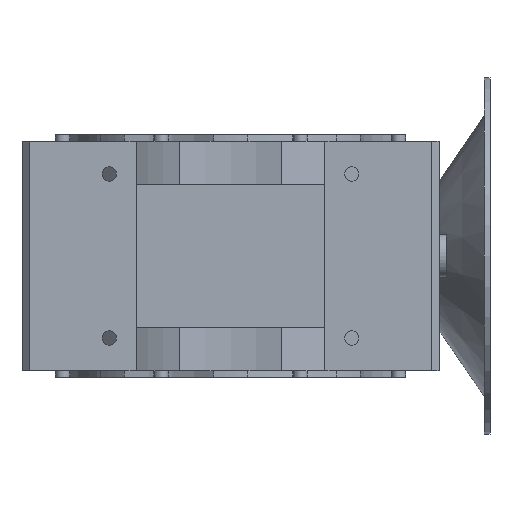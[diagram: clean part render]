
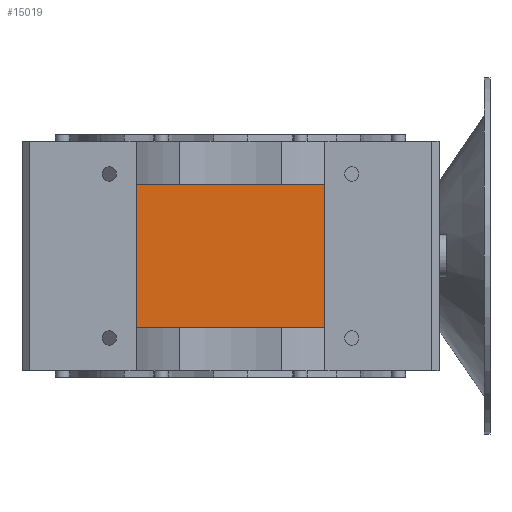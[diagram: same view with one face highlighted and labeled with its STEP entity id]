
A CAD part, front view. The second image highlights one B-rep face of the part: STEP entity #15019.
In plain terms, the highlighted planar face has unit normal (0, -1, 0).
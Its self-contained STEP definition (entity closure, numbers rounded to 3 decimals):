
#260 = VERTEX_POINT ( 'NONE', #22833 ) ;
#578 = DIRECTION ( 'NONE',  ( 0., 0., -1. ) ) ;
#630 = EDGE_CURVE ( 'NONE', #10429, #7874, #7313, .T. ) ;
#2507 = EDGE_CURVE ( 'NONE', #10429, #260, #5347, .T. ) ;
#2562 = DIRECTION ( 'NONE',  ( 1., 0., 0. ) ) ;
#2963 = CARTESIAN_POINT ( 'NONE',  ( -66.25, -142.5, 77. ) ) ;
#2983 = ORIENTED_EDGE ( 'NONE', *, *, #18518, .F. ) ;
#4478 = VECTOR ( 'NONE', #578, 1000. ) ;
#4936 = CARTESIAN_POINT ( 'NONE',  ( 0., -142.5, 50. ) ) ;
#5347 = LINE ( 'NONE', #2963, #4478 ) ;
#5511 = ORIENTED_EDGE ( 'NONE', *, *, #18836, .F. ) ;
#6177 = DIRECTION ( 'NONE',  ( -1., 0., 0. ) ) ;
#7313 = LINE ( 'NONE', #4936, #16032 ) ;
#7874 = VERTEX_POINT ( 'NONE', #21996 ) ;
#8544 = CARTESIAN_POINT ( 'NONE',  ( -335.083, -142.5, -50. ) ) ;
#10429 = VERTEX_POINT ( 'NONE', #14782 ) ;
#10460 = CARTESIAN_POINT ( 'NONE',  ( 66.25, -142.5, -50. ) ) ;
#10576 = DIRECTION ( 'NONE',  ( 0., 0., 1. ) ) ;
#10913 = LINE ( 'NONE', #8544, #17169 ) ;
#12089 = VECTOR ( 'NONE', #15502, 1000. ) ;
#12955 = DIRECTION ( 'NONE',  ( 0., 1., 0. ) ) ;
#13377 = EDGE_LOOP ( 'NONE', ( #2983, #5511, #14923, #14847 ) ) ;
#14782 = CARTESIAN_POINT ( 'NONE',  ( -66.25, -142.5, 50. ) ) ;
#14847 = ORIENTED_EDGE ( 'NONE', *, *, #2507, .T. ) ;
#14923 = ORIENTED_EDGE ( 'NONE', *, *, #630, .F. ) ;
#15019 = ADVANCED_FACE ( 'NONE', ( #22210 ), #17687, .F. ) ;
#15321 = CARTESIAN_POINT ( 'NONE',  ( 0., -142.5, 77. ) ) ;
#15502 = DIRECTION ( 'NONE',  ( 0., 0., -1. ) ) ;
#16032 = VECTOR ( 'NONE', #2562, 1000. ) ;
#17169 = VECTOR ( 'NONE', #6177, 1000. ) ;
#17687 = PLANE ( 'NONE',  #21622 ) ;
#17879 = CARTESIAN_POINT ( 'NONE',  ( 66.25, -142.5, 77. ) ) ;
#18518 = EDGE_CURVE ( 'NONE', #21659, #260, #10913, .T. ) ;
#18836 = EDGE_CURVE ( 'NONE', #7874, #21659, #20263, .T. ) ;
#20263 = LINE ( 'NONE', #17879, #12089 ) ;
#21622 = AXIS2_PLACEMENT_3D ( 'NONE', #15321, #12955, #10576 ) ;
#21659 = VERTEX_POINT ( 'NONE', #10460 ) ;
#21996 = CARTESIAN_POINT ( 'NONE',  ( 66.25, -142.5, 50. ) ) ;
#22210 = FACE_OUTER_BOUND ( 'NONE', #13377, .T. ) ;
#22833 = CARTESIAN_POINT ( 'NONE',  ( -66.25, -142.5, -50. ) ) ;
